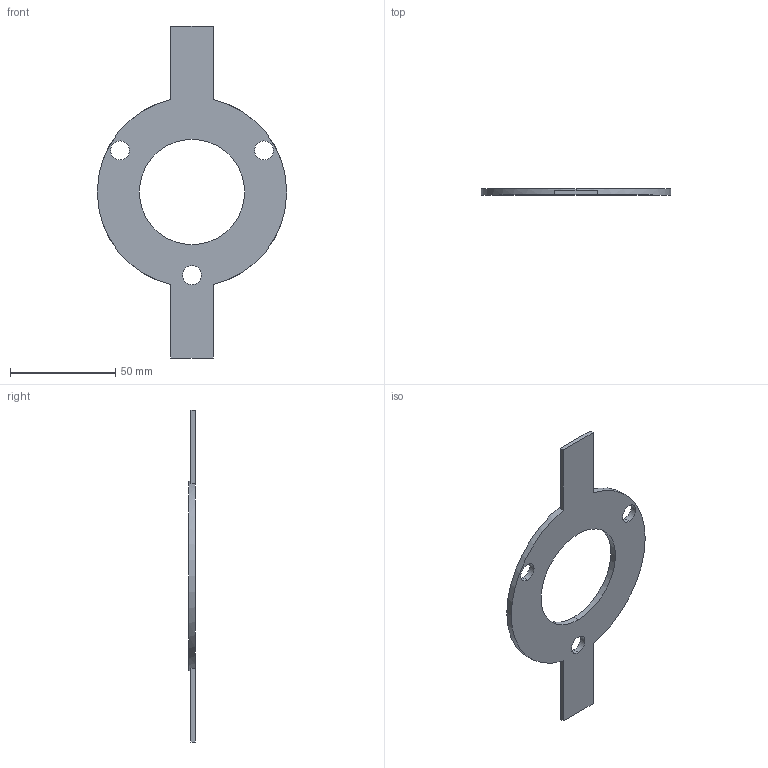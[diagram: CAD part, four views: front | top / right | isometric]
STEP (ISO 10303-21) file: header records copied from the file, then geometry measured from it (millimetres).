
FILE_DESCRIPTION (( 'STEP AP203' ), '1' );
FILE_NAME ('KPH_70_63-54.step', '2011-08-08T12:04:28', ( '' ), ( '' ), 'SwSTEP 2.0', 'SolidWorks 2011', '' );
FILE_SCHEMA (( 'CONFIG_CONTROL_DESIGN' ));
Length unit declared in the file: millimetre
Products named in the file (1): KPH_70_63-54
Bounding box: 90 x 3 x 157.75 mm (x, y, z)
Volume: 15362 mm3; surface area: 13007.9 mm2
Topology: 1 solids, 1 shells, 20 faces, 54 edges, 36 vertices
Faces by surface type: cylinder 10, plane 10
Entity records: 735 total; most frequent: DIRECTION 120, CARTESIAN_POINT 111, ORIENTED_EDGE 108, EDGE_CURVE 54, AXIS2_PLACEMENT_3D 45, VERTEX_POINT 36, VECTOR 30, LINE 30
